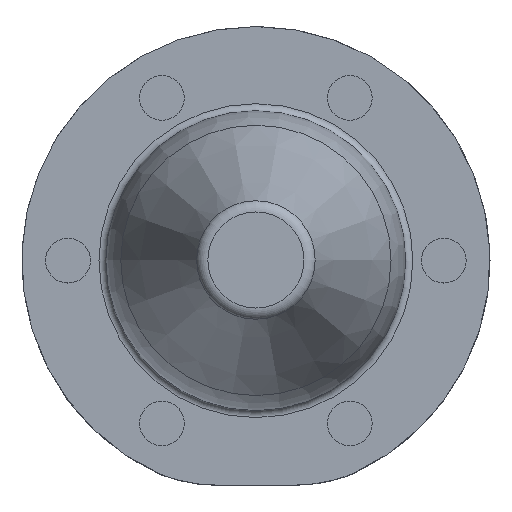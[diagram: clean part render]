
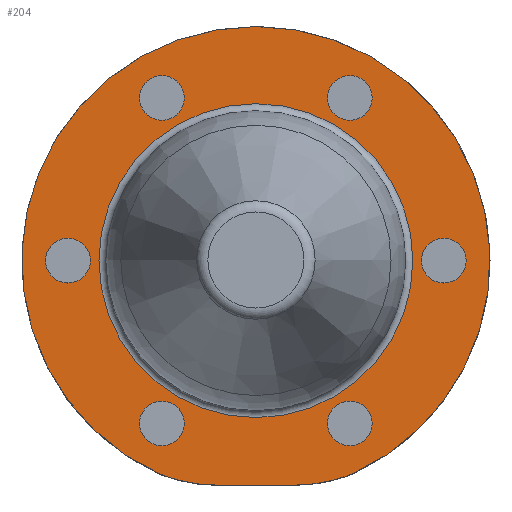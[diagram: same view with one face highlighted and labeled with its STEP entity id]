
A CAD part, top view. The second image highlights one B-rep face of the part: STEP entity #204.
In plain terms, the highlighted planar face has unit normal (0, 0, 1).
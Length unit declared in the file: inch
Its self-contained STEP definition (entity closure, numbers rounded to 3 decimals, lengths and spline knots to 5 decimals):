
#19 = VERTEX_POINT ( 'NONE', #310 ) ;
#26 = AXIS2_PLACEMENT_3D ( 'NONE', #132, #64, #436 ) ;
#64 = DIRECTION ( 'NONE',  ( 0., 0., 1. ) ) ;
#68 = EDGE_CURVE ( 'NONE', #341, #368, #616, .T. ) ;
#70 = FACE_BOUND ( 'NONE', #650, .T. ) ;
#73 = AXIS2_PLACEMENT_3D ( 'NONE', #242, #348, #582 ) ;
#74 = AXIS2_PLACEMENT_3D ( 'NONE', #848, #343, #198 ) ;
#76 = EDGE_CURVE ( 'NONE', #806, #806, #157, .T. ) ;
#85 = CIRCLE ( 'NONE', #26, 0.047 ) ;
#106 = CARTESIAN_POINT ( 'NONE',  ( 0.1505, 0.34208, -0.015 ) ) ;
#114 = CARTESIAN_POINT ( 'NONE',  ( 0., 0., -0.015 ) ) ;
#122 = DIRECTION ( 'NONE',  ( -0.5, 0.866, 0. ) ) ;
#132 = CARTESIAN_POINT ( 'NONE',  ( 0.1975, 0.34208, -0.015 ) ) ;
#141 = AXIS2_PLACEMENT_3D ( 'NONE', #290, #712, #860 ) ;
#146 = EDGE_CURVE ( 'NONE', #647, #341, #766, .T. ) ;
#156 = EDGE_CURVE ( 'NONE', #803, #647, #715, .T. ) ;
#157 = CIRCLE ( 'NONE', #826, 0.047 ) ;
#170 = CARTESIAN_POINT ( 'NONE',  ( -0.1975, -0.34208, -0.015 ) ) ;
#175 = VERTEX_POINT ( 'NONE', #106 ) ;
#179 = DIRECTION ( 'NONE',  ( 1., 0., 0. ) ) ;
#185 = ORIENTED_EDGE ( 'NONE', *, *, #68, .T. ) ;
#192 = FACE_BOUND ( 'NONE', #474, .T. ) ;
#198 = DIRECTION ( 'NONE',  ( 1., 0., 0. ) ) ;
#203 = DIRECTION ( 'NONE',  ( 1., 0., 0. ) ) ;
#204 = ADVANCED_FACE ( 'NONE', ( #339, #884, #748, #433, #70, #192, #416, #211 ), #773, .T. ) ;
#211 = FACE_OUTER_BOUND ( 'NONE', #787, .T. ) ;
#213 = EDGE_CURVE ( 'NONE', #670, #670, #665, .T. ) ;
#217 = DIRECTION ( 'NONE',  ( -0.5, -0.866, 0. ) ) ;
#222 = EDGE_CURVE ( 'NONE', #19, #19, #577, .T. ) ;
#223 = ORIENTED_EDGE ( 'NONE', *, *, #213, .T. ) ;
#225 = CARTESIAN_POINT ( 'NONE',  ( -0.08023, -0.472, -0.015 ) ) ;
#242 = CARTESIAN_POINT ( 'NONE',  ( -0.395, 0., -0.015 ) ) ;
#243 = VERTEX_POINT ( 'NONE', #819 ) ;
#245 = CARTESIAN_POINT ( 'NONE',  ( -0.20285, -0.44838, -0.015 ) ) ;
#252 = ORIENTED_EDGE ( 'NONE', *, *, #321, .F. ) ;
#257 = DIRECTION ( 'NONE',  ( 0., 0., 1. ) ) ;
#290 = CARTESIAN_POINT ( 'NONE',  ( 0.1975, -0.34208, -0.015 ) ) ;
#303 = EDGE_LOOP ( 'NONE', ( #541 ) ) ;
#310 = CARTESIAN_POINT ( 'NONE',  ( 0.3715, 0.0407, -0.015 ) ) ;
#313 = VERTEX_POINT ( 'NONE', #378 ) ;
#321 = EDGE_CURVE ( 'NONE', #243, #243, #785, .T. ) ;
#339 = FACE_BOUND ( 'NONE', #303, .T. ) ;
#341 = VERTEX_POINT ( 'NONE', #225 ) ;
#343 = DIRECTION ( 'NONE',  ( 0., 0., -1. ) ) ;
#348 = DIRECTION ( 'NONE',  ( 0., 0., 1. ) ) ;
#368 = VERTEX_POINT ( 'NONE', #827 ) ;
#378 = CARTESIAN_POINT ( 'NONE',  ( -0.3715, -0.0407, -0.015 ) ) ;
#381 = CARTESIAN_POINT ( 'NONE',  ( 0.32996, 0., -0.015 ) ) ;
#387 = ORIENTED_EDGE ( 'NONE', *, *, #872, .F. ) ;
#390 = VECTOR ( 'NONE', #901, 39.37008 ) ;
#391 = AXIS2_PLACEMENT_3D ( 'NONE', #513, #720, #217 ) ;
#398 = ORIENTED_EDGE ( 'NONE', *, *, #146, .T. ) ;
#405 = DIRECTION ( 'NONE',  ( 0., 0., 1. ) ) ;
#416 = FACE_BOUND ( 'NONE', #488, .T. ) ;
#422 = ORIENTED_EDGE ( 'NONE', *, *, #825, .T. ) ;
#431 = EDGE_CURVE ( 'NONE', #313, #313, #677, .T. ) ;
#432 = DIRECTION ( 'NONE',  ( 0., 0., 1. ) ) ;
#433 = FACE_BOUND ( 'NONE', #627, .T. ) ;
#436 = DIRECTION ( 'NONE',  ( -1., 0., 0. ) ) ;
#440 = AXIS2_PLACEMENT_3D ( 'NONE', #114, #405, #690 ) ;
#463 = EDGE_LOOP ( 'NONE', ( #252 ) ) ;
#474 = EDGE_LOOP ( 'NONE', ( #585 ) ) ;
#478 = VERTEX_POINT ( 'NONE', #760 ) ;
#488 = EDGE_LOOP ( 'NONE', ( #223 ) ) ;
#495 = CARTESIAN_POINT ( 'NONE',  ( 0.20285, -0.44838, -0.015 ) ) ;
#506 = AXIS2_PLACEMENT_3D ( 'NONE', #778, #637, #700 ) ;
#508 = ORIENTED_EDGE ( 'NONE', *, *, #820, .F. ) ;
#510 = DIRECTION ( 'NONE',  ( 0., 0., 1. ) ) ;
#513 = CARTESIAN_POINT ( 'NONE',  ( -0.1975, 0.34208, -0.015 ) ) ;
#541 = ORIENTED_EDGE ( 'NONE', *, *, #431, .F. ) ;
#563 = AXIS2_PLACEMENT_3D ( 'NONE', #631, #510, #122 ) ;
#577 = CIRCLE ( 'NONE', #563, 0.047 ) ;
#582 = DIRECTION ( 'NONE',  ( 0.5, -0.866, 0. ) ) ;
#585 = ORIENTED_EDGE ( 'NONE', *, *, #76, .F. ) ;
#602 = AXIS2_PLACEMENT_3D ( 'NONE', #621, #257, #179 ) ;
#604 = CIRCLE ( 'NONE', #664, 0.33 ) ;
#616 = LINE ( 'NONE', #822, #390 ) ;
#621 = CARTESIAN_POINT ( 'NONE',  ( -0.08023, -0.142, -0.015 ) ) ;
#627 = EDGE_LOOP ( 'NONE', ( #907 ) ) ;
#631 = CARTESIAN_POINT ( 'NONE',  ( 0.395, 0., -0.015 ) ) ;
#637 = DIRECTION ( 'NONE',  ( 0., 0., 1. ) ) ;
#647 = VERTEX_POINT ( 'NONE', #245 ) ;
#650 = EDGE_LOOP ( 'NONE', ( #387 ) ) ;
#664 = AXIS2_PLACEMENT_3D ( 'NONE', #851, #432, #203 ) ;
#665 = CIRCLE ( 'NONE', #74, 0.32996 ) ;
#670 = VERTEX_POINT ( 'NONE', #381 ) ;
#677 = CIRCLE ( 'NONE', #73, 0.047 ) ;
#681 = DIRECTION ( 'NONE',  ( 1., 0., 0. ) ) ;
#690 = DIRECTION ( 'NONE',  ( 1., 0., 0. ) ) ;
#700 = DIRECTION ( 'NONE',  ( 1., 0., 0. ) ) ;
#712 = DIRECTION ( 'NONE',  ( 0., 0., 1. ) ) ;
#715 = CIRCLE ( 'NONE', #440, 0.49213 ) ;
#720 = DIRECTION ( 'NONE',  ( 0., 0., 1. ) ) ;
#748 = FACE_BOUND ( 'NONE', #807, .T. ) ;
#760 = CARTESIAN_POINT ( 'NONE',  ( 0.221, -0.30138, -0.015 ) ) ;
#766 = CIRCLE ( 'NONE', #602, 0.33 ) ;
#773 = PLANE ( 'NONE',  #506 ) ;
#778 = CARTESIAN_POINT ( 'NONE',  ( 0., 0., -0.015 ) ) ;
#785 = CIRCLE ( 'NONE', #391, 0.047 ) ;
#787 = EDGE_LOOP ( 'NONE', ( #850, #398, #185, #422 ) ) ;
#803 = VERTEX_POINT ( 'NONE', #495 ) ;
#806 = VERTEX_POINT ( 'NONE', #874 ) ;
#807 = EDGE_LOOP ( 'NONE', ( #508 ) ) ;
#818 = DIRECTION ( 'NONE',  ( 0., 0., 1. ) ) ;
#819 = CARTESIAN_POINT ( 'NONE',  ( -0.221, 0.30138, -0.015 ) ) ;
#820 = EDGE_CURVE ( 'NONE', #175, #175, #85, .T. ) ;
#822 = CARTESIAN_POINT ( 'NONE',  ( 0., -0.472, -0.015 ) ) ;
#825 = EDGE_CURVE ( 'NONE', #368, #803, #604, .T. ) ;
#826 = AXIS2_PLACEMENT_3D ( 'NONE', #170, #818, #681 ) ;
#827 = CARTESIAN_POINT ( 'NONE',  ( 0.08023, -0.472, -0.015 ) ) ;
#848 = CARTESIAN_POINT ( 'NONE',  ( 0., 0., -0.015 ) ) ;
#850 = ORIENTED_EDGE ( 'NONE', *, *, #156, .T. ) ;
#851 = CARTESIAN_POINT ( 'NONE',  ( 0.08023, -0.142, -0.015 ) ) ;
#860 = DIRECTION ( 'NONE',  ( 0.5, 0.866, 0. ) ) ;
#866 = CIRCLE ( 'NONE', #141, 0.047 ) ;
#872 = EDGE_CURVE ( 'NONE', #478, #478, #866, .T. ) ;
#874 = CARTESIAN_POINT ( 'NONE',  ( -0.1505, -0.34208, -0.015 ) ) ;
#884 = FACE_BOUND ( 'NONE', #463, .T. ) ;
#901 = DIRECTION ( 'NONE',  ( 1., 0., 0. ) ) ;
#907 = ORIENTED_EDGE ( 'NONE', *, *, #222, .F. ) ;
